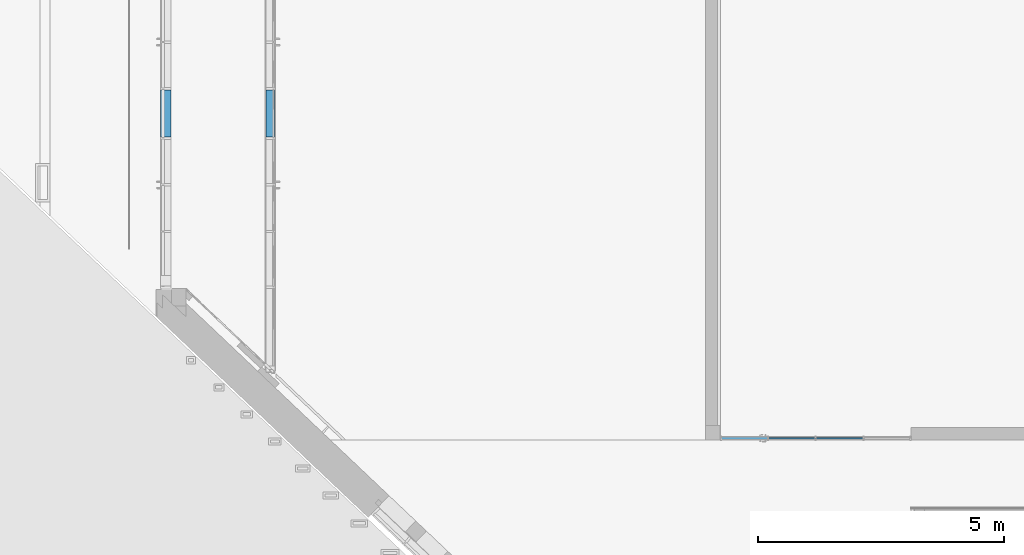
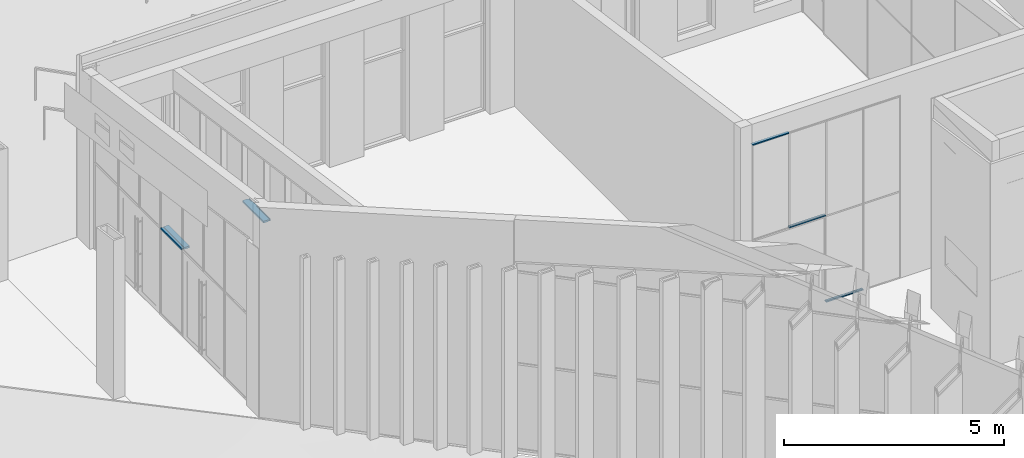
# One storey, part 87 of 246: 5 members, 3 elements without a shape of their own.
"""IFC2X3 building model written with IfcOpenShell, lengths in millimetres."""

from ifc_helpers import new_model, entity, si_unit, converted_unit, derived_unit, money_unit, direction, frame, origin_with_axes, place, context, subcontext, project, spatial, faceted_brep, material, material_list, type_object, element, aggregate, save


model = new_model("IFC2X3")

# Units and contexts
model_context = context("Model", 3, precision=0.01, world=origin_with_axes(), true_north=direction((0.0, 1.0)))
body_context = subcontext(model_context, "Body", "Model", "MODEL_VIEW")
ifc_project = project(units=[si_unit("LENGTHUNIT", "METRE", prefix="MILLI"), si_unit("AREAUNIT", "SQUARE_METRE"), si_unit("VOLUMEUNIT", "CUBIC_METRE"), converted_unit("PLANEANGLEUNIT", "DEGREE", entity("IfcPlaneAngleMeasure", 0.0174532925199), si_unit("PLANEANGLEUNIT", "RADIAN"), dimensions=[0, 0, 0, 0, 0, 0, 0]), si_unit("SOLIDANGLEUNIT", "STERADIAN"), money_unit("EUR"), converted_unit("TIMEUNIT", "Year", entity("IfcTimeMeasure", 31556926.0), si_unit("TIMEUNIT", "SECOND"), dimensions=[0, 0, 1, 0, 0, 0, 0]), si_unit("MASSUNIT", "GRAM", prefix="KILO"), si_unit("THERMODYNAMICTEMPERATUREUNIT", "DEGREE_CELSIUS"), si_unit("LUMINOUSINTENSITYUNIT", "LUMEN"), si_unit("ENERGYUNIT", "JOULE", prefix="MEGA"), derived_unit("THERMALCONDUCTANCEUNIT", [(si_unit("POWERUNIT", "WATT"), 1), (si_unit("LENGTHUNIT", "METRE"), -1), (si_unit("THERMODYNAMICTEMPERATUREUNIT", "KELVIN"), -1)]), derived_unit("SPECIFICHEATCAPACITYUNIT", [(si_unit("ENERGYUNIT", "JOULE"), 1), (si_unit("MASSUNIT", "GRAM", prefix="KILO"), -1), (si_unit("THERMODYNAMICTEMPERATUREUNIT", "KELVIN"), -1)]), derived_unit("MASSDENSITYUNIT", [(si_unit("MASSUNIT", "GRAM", prefix="KILO"), 1), (si_unit("VOLUMEUNIT", "CUBIC_METRE"), -1)])], contexts=[model_context])

# Site, building, storey
site_placement = place(None, origin_with_axes())
site = spatial("IfcSite", under=ifc_project, at=site_placement, Name="L.Koidula tn 11b", CompositionType="ELEMENT")
building_placement = place(site_placement, origin_with_axes())
building = spatial("IfcBuilding", under=site, at=building_placement, Name="Rakvere Riigigümnaasium", CompositionType="ELEMENT")
storey_placement = place(building_placement, origin_with_axes())
storey = spatial("IfcBuildingStorey", under=building, at=storey_placement, Name="1.korrus 0,00", CompositionType="ELEMENT", Elevation=0.0)

# Curtain wall, member
curtain_wall_type = type_object("IfcCurtainWallType", Name="Curtain Wall Type", PredefinedType="NOTDEFINED")
curtain_wall_1_placement = place(storey_placement, frame((14260.0344055, 70945.4519938, -0.000165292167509), z_axis=(0.0, 0.0, 1.0), x_axis=(1.0, 0.0, 0.0)))
curtain_wall_1 = element("IfcCurtainWall", 1, at=curtain_wall_1_placement, inside=storey, type_object=curtain_wall_type, Name="KLF-01A")
ifc_material_1 = material(Name="Alumiiniumprofiil (RAL 7021)")
member_type_1 = type_object("IfcMemberType", Name="Transom Frame 50 x 208", PredefinedType="MULLION")
member_1_placement = place(curtain_wall_1_placement, frame((0.0, -2455.0, 2400.00026018), z_axis=(0.0, -1.0, 0.0), x_axis=(0.0, 0.0, 1.0)))
member_1 = element("IfcMember", 2, at=member_1_placement, type_object=member_type_1, material=ifc_material_1, Name="KLF-01 Profiilid", ObjectType="MULLION", context=body_context, shape_type="Brep", body=[
    faceted_brep([(-12.0, -27.0, 980.0), (-25.0, -27.0, 980.0), (-25.0, -160.0, 980.0), (25.0, -160.0, 980.0), (25.0, -27.0, 980.0), (12.0, -27.0, 980.0), (12.0, 27.0, 980.0), (25.0, 27.0, 980.0), (25.0, 48.0, 980.0), (-25.0, 48.0, 980.0), (-25.0, 27.0, 980.0), (-12.0, 27.0, 980.0), (-12.0, -27.0, 25.0), (-25.0, -27.0, 25.0), (-25.0, -160.0, 25.0), (25.0, -160.0, 25.0), (25.0, -27.0, 25.0), (12.0, -27.0, 25.0), (12.0, 27.0, 25.0), (25.0, 27.0, 25.0), (25.0, 48.0, 25.0), (-25.0, 48.0, 25.0), (-25.0, 27.0, 25.0), (-12.0, 27.0, 25.0)], [[[0, 1, 2, 3, 4, 5, 6, 7, 8, 9, 10, 11]], [[1, 0, 12, 13]], [[1, 13, 14, 2]], [[2, 14, 15, 3]], [[4, 3, 15, 16]], [[4, 16, 17, 5]], [[5, 17, 18, 6]], [[7, 6, 18, 19]], [[19, 20, 8, 7]], [[8, 20, 21, 9]], [[22, 10, 9, 21]], [[11, 10, 22, 23]], [[0, 11, 23, 12]], [[23, 22, 21, 20, 19, 18, 17, 16, 15, 14, 13, 12]]]),
])
aggregate(curtain_wall_1, [member_1])

# Curtain wall, members
curtain_wall_2_placement = place(storey_placement, frame((26572.4999007, 61372.4546496, 0.0), z_axis=(0.0, 0.0, 1.0), x_axis=(1.0, 0.0, 0.0)))
curtain_wall_2 = element("IfcCurtainWall", 3, at=curtain_wall_2_placement, inside=storey, type_object=curtain_wall_type, Name="SKLF-01")
ifc_material_2 = material(Name="Klaasvill")
ifc_material_3 = material(Name="Teras RAL7012")
ifc_material_list = material_list([ifc_material_2, ifc_material_3])
member_type_2 = type_object("IfcMemberType", Name="Siseklaasfassaad-Servaprofiil-Doubleline30 30 x 42", PredefinedType="MULLION")
member_2_placement = place(curtain_wall_2_placement, frame((0.0, 0.0, 2400.0), z_axis=(1.0, 0.0, 0.0), x_axis=(0.0, 0.0, 1.0)))
member_2 = element("IfcMember", 4, at=member_2_placement, type_object=member_type_2, material=ifc_material_list, Name="Frame-Siseklaasf-104", ObjectType="MULLION", context=body_context, shape_type="Brep", body=[
    faceted_brep([(13.8499999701, 15.000000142, 7.84833717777), (13.8499999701, 15.000000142, 964.651662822), (7.49999990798, 15.000000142, 968.249997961), (7.49999990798, 15.000000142, 4.25000203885), (13.8499999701, 29.0161444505, 7.84833717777), (13.8499999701, 29.0161444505, 964.651662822), (7.49999990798, 29.0161444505, 968.249997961), (7.49999990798, 29.0161444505, 4.25000203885)], [[[0, 1, 2, 3]], [[4, 5, 1, 0]], [[2, 1, 5, 6]], [[3, 2, 6, 7]], [[3, 7, 4, 0]], [[7, 6, 5, 4]]]),
    faceted_brep([(25.004489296, 27.0307503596, 14.1692175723), (25.004489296, 27.0307503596, 958.330782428), (24.987414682, 29.0161444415, 958.340458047), (24.987414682, 29.0161444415, 14.159541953), (25.742237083, 26.2930025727, 14.5872748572), (25.742237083, 26.2930025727, 957.912725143), (26.7500193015, 26.0229681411, 957.341648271), (27.75780152, 26.2930025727, 956.7705714), (28.4955493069, 27.0307503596, 956.352514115), (28.7655837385, 28.0385325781, 956.199494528), (28.5126239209, 29.0161444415, 956.342838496), (28.5126239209, 29.0161444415, 16.1571615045), (28.7655837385, 28.0385325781, 16.3005054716), (28.4955493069, 27.0307503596, 16.1474858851), (27.75780152, 26.2930025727, 15.7294286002), (26.7500193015, 26.0229681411, 15.1583517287)], [[[0, 1, 2, 3]], [[4, 5, 1, 0]], [[2, 1, 5, 6, 7, 8, 9, 10]], [[3, 2, 10, 11]], [[3, 11, 12, 13, 14, 15, 4, 0]], [[15, 6, 5, 4]], [[14, 7, 6, 15]], [[13, 8, 7, 14]], [[12, 9, 8, 13]], [[11, 10, 9, 12]]]),
    faceted_brep([(7.49999990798, -39.0161445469, 4.25000203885), (7.49999990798, -39.0161445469, 968.249997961), (7.49999990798, -24.9999997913, 968.249997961), (7.49999990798, -24.9999997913, 4.25000203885), (13.8499999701, -39.0161445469, 7.84833717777), (13.8499999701, -39.0161445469, 964.651662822), (13.8499999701, -24.9999997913, 964.651662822), (13.8499999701, -24.9999997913, 7.84833717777)], [[[0, 1, 2, 3]], [[4, 5, 1, 0]], [[2, 1, 5, 6]], [[3, 2, 6, 7]], [[3, 7, 4, 0]], [[7, 6, 5, 4]]]),
    faceted_brep([(24.987414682, -39.0161444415, 14.159541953), (24.987414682, -39.0161444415, 958.340458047), (25.004489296, -37.0307503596, 958.330782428), (25.004489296, -37.0307503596, 14.1692175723), (28.5126239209, -39.0161444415, 16.1571615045), (28.5126239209, -39.0161444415, 956.342838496), (28.7655837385, -38.0385325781, 956.199494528), (28.4955493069, -37.0307503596, 956.352514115), (27.75780152, -36.2930025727, 956.7705714), (26.7500193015, -36.0229681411, 957.341648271), (25.742237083, -36.2930025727, 957.912725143), (25.742237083, -36.2930025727, 14.5872748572), (26.7500193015, -36.0229681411, 15.1583517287), (27.75780152, -36.2930025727, 15.7294286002), (28.4955493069, -37.0307503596, 16.1474858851), (28.7655837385, -38.0385325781, 16.3005054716)], [[[0, 1, 2, 3]], [[4, 5, 1, 0]], [[2, 1, 5, 6, 7, 8, 9, 10]], [[3, 2, 10, 11]], [[3, 11, 12, 13, 14, 15, 4, 0]], [[15, 6, 5, 4]], [[14, 7, 6, 15]], [[13, 8, 7, 14]], [[12, 9, 8, 13]], [[11, 10, 9, 12]]]),
    faceted_brep([(29.5999996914, -22.0000000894, 16.7733414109), (29.5999996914, -22.0000000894, 955.726658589), (0.0, -22.0000000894, 972.5), (0.0, -22.0000000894, 0.0), (29.5999996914, 12.0000000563, 16.7733414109), (29.5999996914, 12.0000000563, 955.726658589), (0.0, 12.0000000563, 972.5), (1.9999999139, 10.0000001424, 971.366666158), (18.7999996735, 10.0000001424, 961.84666161), (18.7999996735, -20.0000001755, 961.84666161), (1.9999999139, -20.0000001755, 971.366666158), (0.0, 12.0000000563, 0.0), (1.9999999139, 10.0000001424, 1.13333384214), (1.9999999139, -20.0000001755, 1.13333384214), (18.7999996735, -20.0000001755, 10.6533383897), (18.7999996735, 10.0000001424, 10.6533383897)], [[[0, 1, 2, 3]], [[4, 5, 1, 0]], [[2, 1, 5, 6], [7, 8, 9, 10]], [[3, 2, 6, 11]], [[3, 11, 4, 0], [12, 13, 14, 15]], [[11, 6, 5, 4]], [[15, 8, 7, 12]], [[14, 9, 8, 15]], [[13, 10, 9, 14]], [[12, 7, 10, 13]]]),
    faceted_brep([(29.5999996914, 12.0000000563, 16.7733414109), (29.5999996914, 12.0000000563, 955.726658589), (0.0, 12.0, 972.5), (0.0, 12.0, 0.0), (30.0000193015, 12.0, 17.0000193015), (30.0000193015, 12.0, 955.499980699), (30.0000193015, 15.0, 955.499980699), (13.8499999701, 15.000000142, 964.651662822), (7.49999999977, 15.0, 968.249997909), (7.49999999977, 29.0161444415, 968.249997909), (13.8499999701, 29.0161444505, 964.651662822), (24.987414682, 29.0161444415, 958.340458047), (28.5126239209, 29.0161444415, 956.342838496), (30.0000193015, 29.0161444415, 955.499980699), (30.0000193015, 32.0, 955.499980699), (0.0, 32.0, 972.5), (0.0, 32.0, 0.0), (30.0000193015, 32.0, 17.0000193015), (30.0000193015, 29.0161444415, 17.0000193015), (28.5126239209, 29.0161444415, 16.1571615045), (24.987414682, 29.0161444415, 14.159541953), (13.8499999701, 29.0161444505, 7.84833717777), (7.49999999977, 29.0161444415, 4.25000209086), (7.49999999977, 15.0, 4.25000209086), (13.8499999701, 15.000000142, 7.84833717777), (30.0000193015, 15.0, 17.0000193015)], [[[0, 1, 2, 3]], [[4, 5, 1, 0]], [[2, 1, 5, 6, 7, 8, 9, 10, 11, 12, 13, 14, 15]], [[3, 2, 15, 16]], [[3, 16, 17, 18, 19, 20, 21, 22, 23, 24, 25, 4, 0]], [[25, 6, 5, 4]], [[24, 7, 6, 25]], [[23, 8, 7, 24]], [[22, 9, 8, 23]], [[21, 10, 9, 22]], [[20, 11, 10, 21]], [[19, 12, 11, 20]], [[18, 13, 12, 19]], [[17, 14, 13, 18]], [[16, 15, 14, 17]]]),
    faceted_brep([(0.0, -42.0, 0.0), (0.0, -42.0, 972.5), (0.0, -22.0, 972.5), (0.0, -22.0, 0.0), (30.0000193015, -42.0, 17.0000193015), (30.0000193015, -42.0, 955.499980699), (30.0000193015, -39.0161444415, 955.499980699), (28.5126239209, -39.0161444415, 956.342838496), (24.987414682, -39.0161444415, 958.340458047), (13.8499999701, -39.0161445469, 964.651662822), (7.49999999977, -39.0161444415, 968.249997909), (7.49999999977, -25.0, 968.249997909), (13.8499999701, -24.9999997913, 964.651662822), (30.0000193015, -25.0, 955.499980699), (30.0000193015, -22.0, 955.499980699), (29.5999996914, -22.0000000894, 955.726658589), (29.5999996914, -22.0000000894, 16.7733414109), (30.0000193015, -22.0, 17.0000193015), (30.0000193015, -25.0, 17.0000193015), (13.8499999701, -24.9999997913, 7.84833717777), (7.49999999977, -25.0, 4.25000209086), (7.49999999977, -39.0161444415, 4.25000209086), (13.8499999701, -39.0161445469, 7.84833717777), (24.987414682, -39.0161444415, 14.159541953), (28.5126239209, -39.0161444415, 16.1571615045), (30.0000193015, -39.0161444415, 17.0000193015)], [[[0, 1, 2, 3]], [[4, 5, 1, 0]], [[2, 1, 5, 6, 7, 8, 9, 10, 11, 12, 13, 14, 15]], [[3, 2, 15, 16]], [[3, 16, 17, 18, 19, 20, 21, 22, 23, 24, 25, 4, 0]], [[25, 6, 5, 4]], [[24, 7, 6, 25]], [[23, 8, 7, 24]], [[22, 9, 8, 23]], [[21, 10, 9, 22]], [[20, 11, 10, 21]], [[19, 12, 11, 20]], [[18, 13, 12, 19]], [[17, 14, 13, 18]], [[16, 15, 14, 17]]]),
])
member_type_3 = type_object("IfcMemberType", Name="Boundary Frame 30 x 42", PredefinedType="MULLION")
member_3_placement = place(curtain_wall_2_placement, frame((972.5, 0.0, 0.0), z_axis=(1.0, 0.0, 0.0), x_axis=(0.0, 0.0, 1.0)))
member_3 = element("IfcMember", 5, at=member_3_placement, type_object=member_type_3, material=ifc_material_list, Name="SKLF-66-raam", ObjectType="MULLION", context=body_context, shape_type="Brep", body=[
    faceted_brep([(7.49999990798, 15.000000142, 0.0), (13.8499999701, 15.000000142, 0.0), (13.8499999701, 15.000000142, 972.5), (7.49999990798, 15.000000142, 972.5), (7.49999990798, 29.0161444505, 0.0), (13.8499999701, 29.0161444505, 0.0), (13.8499999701, 29.0161444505, 972.5), (7.49999990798, 29.0161444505, 972.5)], [[[0, 1, 2, 3]], [[0, 4, 5, 1]], [[1, 5, 6, 2]], [[3, 2, 6, 7]], [[4, 0, 3, 7]], [[5, 4, 7, 6]]]),
    faceted_brep([(24.987414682, 29.0161444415, 0.0), (25.004489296, 27.0307503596, 0.0), (25.004489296, 27.0307503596, 972.5), (24.987414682, 29.0161444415, 972.5), (28.5126239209, 29.0161444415, 0.0), (28.7655837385, 28.0385325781, 0.0), (28.4955493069, 27.0307503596, 0.0), (27.75780152, 26.2930025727, 0.0), (26.7500193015, 26.0229681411, 0.0), (25.742237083, 26.2930025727, 0.0), (25.742237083, 26.2930025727, 972.5), (26.7500193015, 26.0229681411, 972.5), (27.75780152, 26.2930025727, 972.5), (28.4955493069, 27.0307503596, 972.5), (28.7655837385, 28.0385325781, 972.5), (28.5126239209, 29.0161444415, 972.5)], [[[0, 1, 2, 3]], [[0, 4, 5, 6, 7, 8, 9, 1]], [[1, 9, 10, 2]], [[3, 2, 10, 11, 12, 13, 14, 15]], [[4, 0, 3, 15]], [[5, 4, 15, 14]], [[6, 5, 14, 13]], [[7, 6, 13, 12]], [[8, 7, 12, 11]], [[9, 8, 11, 10]]]),
    faceted_brep([(7.49999990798, -24.9999997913, 0.0), (7.49999990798, -39.0161445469, 0.0), (7.49999990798, -39.0161445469, 972.5), (7.49999990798, -24.9999997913, 972.5), (13.8499999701, -24.9999997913, 0.0), (13.8499999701, -39.0161445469, 0.0), (13.8499999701, -39.0161445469, 972.5), (13.8499999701, -24.9999997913, 972.5)], [[[0, 1, 2, 3]], [[0, 4, 5, 1]], [[1, 5, 6, 2]], [[3, 2, 6, 7]], [[4, 0, 3, 7]], [[5, 4, 7, 6]]]),
    faceted_brep([(25.004489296, -37.0307503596, 0.0), (24.987414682, -39.0161444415, 0.0), (24.987414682, -39.0161444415, 972.5), (25.004489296, -37.0307503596, 972.5), (25.742237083, -36.2930025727, 0.0), (26.7500193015, -36.0229681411, 0.0), (27.75780152, -36.2930025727, 0.0), (28.4955493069, -37.0307503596, 0.0), (28.7655837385, -38.0385325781, 0.0), (28.5126239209, -39.0161444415, 0.0), (28.5126239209, -39.0161444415, 972.5), (28.7655837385, -38.0385325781, 972.5), (28.4955493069, -37.0307503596, 972.5), (27.75780152, -36.2930025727, 972.5), (26.7500193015, -36.0229681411, 972.5), (25.742237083, -36.2930025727, 972.5)], [[[0, 1, 2, 3]], [[0, 4, 5, 6, 7, 8, 9, 1]], [[1, 9, 10, 2]], [[3, 2, 10, 11, 12, 13, 14, 15]], [[4, 0, 3, 15]], [[5, 4, 15, 14]], [[6, 5, 14, 13]], [[7, 6, 13, 12]], [[8, 7, 12, 11]], [[9, 8, 11, 10]]]),
    faceted_brep([(0.0, -22.0000000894, 0.0), (29.5999996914, -22.0000000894, 0.0), (29.5999996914, -22.0000000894, 972.5), (0.0, -22.0000000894, 972.5), (0.0, 12.0000000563, 0.0), (29.5999996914, 12.0000000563, 0.0), (1.9999999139, 10.0000001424, 0.0), (1.9999999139, -20.0000001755, 0.0), (18.7999996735, -20.0000001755, 0.0), (18.7999996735, 10.0000001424, 0.0), (29.5999996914, 12.0000000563, 972.5), (0.0, 12.0000000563, 972.5), (1.9999999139, 10.0000001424, 972.5), (18.7999996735, 10.0000001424, 972.5), (18.7999996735, -20.0000001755, 972.5), (1.9999999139, -20.0000001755, 972.5)], [[[0, 1, 2, 3]], [[0, 4, 5, 1], [6, 7, 8, 9]], [[1, 5, 10, 2]], [[3, 2, 10, 11], [12, 13, 14, 15]], [[4, 0, 3, 11]], [[5, 4, 11, 10]], [[7, 6, 12, 15]], [[8, 7, 15, 14]], [[9, 8, 14, 13]], [[6, 9, 13, 12]]]),
    faceted_brep([(0.0, 12.0, 0.0), (29.5999996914, 12.0000000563, 0.0), (29.5999996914, 12.0000000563, 972.5), (0.0, 12.0, 972.5), (0.0, 32.0, 0.0), (30.0000193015, 32.0, 0.0), (30.0000193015, 29.0161444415, 0.0), (28.5126239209, 29.0161444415, 0.0), (24.987414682, 29.0161444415, 0.0), (13.8499999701, 29.0161444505, 0.0), (7.49999999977, 29.0161444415, 0.0), (7.49999999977, 15.0, 0.0), (13.8499999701, 15.000000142, 0.0), (30.0000193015, 15.0, 0.0), (30.0000193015, 12.0, 0.0), (30.0000193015, 12.0, 972.5), (30.0000193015, 15.0, 972.5), (13.8499999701, 15.000000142, 972.5), (7.49999999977, 15.0, 972.5), (7.49999999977, 29.0161444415, 972.5), (13.8499999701, 29.0161444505, 972.5), (24.987414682, 29.0161444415, 972.5), (28.5126239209, 29.0161444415, 972.5), (30.0000193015, 29.0161444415, 972.5), (30.0000193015, 32.0, 972.5), (0.0, 32.0, 972.5)], [[[0, 1, 2, 3]], [[0, 4, 5, 6, 7, 8, 9, 10, 11, 12, 13, 14, 1]], [[1, 14, 15, 2]], [[3, 2, 15, 16, 17, 18, 19, 20, 21, 22, 23, 24, 25]], [[4, 0, 3, 25]], [[5, 4, 25, 24]], [[6, 5, 24, 23]], [[7, 6, 23, 22]], [[8, 7, 22, 21]], [[9, 8, 21, 20]], [[10, 9, 20, 19]], [[11, 10, 19, 18]], [[12, 11, 18, 17]], [[13, 12, 17, 16]], [[14, 13, 16, 15]]]),
    faceted_brep([(0.0, -22.0, 0.0), (0.0, -42.0, 0.0), (0.0, -42.0, 972.5), (0.0, -22.0, 972.5), (29.5999996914, -22.0000000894, 0.0), (30.0000193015, -22.0, 0.0), (30.0000193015, -25.0, 0.0), (13.8499999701, -24.9999997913, 0.0), (7.49999999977, -25.0, 0.0), (7.49999999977, -39.0161444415, 0.0), (13.8499999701, -39.0161445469, 0.0), (24.987414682, -39.0161444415, 0.0), (28.5126239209, -39.0161444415, 0.0), (30.0000193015, -39.0161444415, 0.0), (30.0000193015, -42.0, 0.0), (30.0000193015, -42.0, 972.5), (30.0000193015, -39.0161444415, 972.5), (28.5126239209, -39.0161444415, 972.5), (24.987414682, -39.0161444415, 972.5), (13.8499999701, -39.0161445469, 972.5), (7.49999999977, -39.0161444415, 972.5), (7.49999999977, -25.0, 972.5), (13.8499999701, -24.9999997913, 972.5), (30.0000193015, -25.0, 972.5), (30.0000193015, -22.0, 972.5), (29.5999996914, -22.0000000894, 972.5)], [[[0, 1, 2, 3]], [[0, 4, 5, 6, 7, 8, 9, 10, 11, 12, 13, 14, 1]], [[1, 14, 15, 2]], [[3, 2, 15, 16, 17, 18, 19, 20, 21, 22, 23, 24, 25]], [[4, 0, 3, 25]], [[5, 4, 25, 24]], [[6, 5, 24, 23]], [[7, 6, 23, 22]], [[8, 7, 22, 21]], [[9, 8, 21, 20]], [[10, 9, 20, 19]], [[11, 10, 19, 18]], [[12, 11, 18, 17]], [[13, 12, 17, 16]], [[14, 13, 16, 15]]]),
])
member_4_placement = place(curtain_wall_2_placement, frame((-972.5, 0.0, 5050.0), z_axis=(1.0, 0.0, 0.0), x_axis=(0.0, 0.0, 1.0)))
member_4 = element("IfcMember", 6, at=member_4_placement, type_object=member_type_3, material=ifc_material_list, Name="SKLF-73-raam", ObjectType="MULLION", context=body_context, shape_type="Brep", body=[
    faceted_brep([(-13.8499999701, 15.000000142, 13.8499999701), (-7.49999990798, 15.000000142, 7.49999990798), (-7.49999990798, 15.000000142, 972.5), (-13.8499999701, 15.000000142, 972.5), (-13.8499999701, 29.0161444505, 13.8499999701), (-7.49999990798, 29.0161444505, 7.49999990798), (-7.49999990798, 29.0161444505, 972.5), (-13.8499999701, 29.0161444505, 972.5)], [[[0, 1, 2, 3]], [[1, 0, 4, 5]], [[1, 5, 6, 2]], [[2, 6, 7, 3]], [[4, 0, 3, 7]], [[5, 4, 7, 6]]]),
    faceted_brep([(-25.004489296, 27.0307503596, 25.004489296), (-24.987414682, 29.0161444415, 24.987414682), (-24.987414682, 29.0161444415, 972.5), (-25.004489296, 27.0307503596, 972.5), (-25.742237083, 26.2930025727, 25.742237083), (-26.7500193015, 26.0229681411, 26.7500193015), (-27.75780152, 26.2930025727, 27.75780152), (-28.4955493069, 27.0307503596, 28.4955493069), (-28.7655837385, 28.0385325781, 28.7655837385), (-28.5126239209, 29.0161444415, 28.5126239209), (-28.5126239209, 29.0161444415, 972.5), (-28.7655837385, 28.0385325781, 972.5), (-28.4955493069, 27.0307503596, 972.5), (-27.75780152, 26.2930025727, 972.5), (-26.7500193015, 26.0229681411, 972.5), (-25.742237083, 26.2930025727, 972.5)], [[[0, 1, 2, 3]], [[1, 0, 4, 5, 6, 7, 8, 9]], [[1, 9, 10, 2]], [[2, 10, 11, 12, 13, 14, 15, 3]], [[4, 0, 3, 15]], [[5, 4, 15, 14]], [[6, 5, 14, 13]], [[7, 6, 13, 12]], [[8, 7, 12, 11]], [[9, 8, 11, 10]]]),
    faceted_brep([(-7.49999990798, -39.0161445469, 7.49999990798), (-7.49999990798, -24.9999997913, 7.49999990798), (-7.49999990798, -24.9999997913, 972.5), (-7.49999990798, -39.0161445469, 972.5), (-13.8499999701, -39.0161445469, 13.8499999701), (-13.8499999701, -24.9999997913, 13.8499999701), (-13.8499999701, -24.9999997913, 972.5), (-13.8499999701, -39.0161445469, 972.5)], [[[0, 1, 2, 3]], [[1, 0, 4, 5]], [[1, 5, 6, 2]], [[2, 6, 7, 3]], [[4, 0, 3, 7]], [[5, 4, 7, 6]]]),
    faceted_brep([(-24.987414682, -39.0161444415, 24.987414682), (-25.004489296, -37.0307503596, 25.004489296), (-25.004489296, -37.0307503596, 972.5), (-24.987414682, -39.0161444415, 972.5), (-28.5126239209, -39.0161444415, 28.5126239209), (-28.7655837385, -38.0385325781, 28.7655837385), (-28.4955493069, -37.0307503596, 28.4955493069), (-27.75780152, -36.2930025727, 27.75780152), (-26.7500193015, -36.0229681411, 26.7500193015), (-25.742237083, -36.2930025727, 25.742237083), (-25.742237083, -36.2930025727, 972.5), (-26.7500193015, -36.0229681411, 972.5), (-27.75780152, -36.2930025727, 972.5), (-28.4955493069, -37.0307503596, 972.5), (-28.7655837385, -38.0385325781, 972.5), (-28.5126239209, -39.0161444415, 972.5)], [[[0, 1, 2, 3]], [[1, 0, 4, 5, 6, 7, 8, 9]], [[1, 9, 10, 2]], [[2, 10, 11, 12, 13, 14, 15, 3]], [[4, 0, 3, 15]], [[5, 4, 15, 14]], [[6, 5, 14, 13]], [[7, 6, 13, 12]], [[8, 7, 12, 11]], [[9, 8, 11, 10]]]),
    faceted_brep([(-29.5999996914, -22.0000000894, 29.5999996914), (0.0, -22.0000000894, 0.0), (0.0, -22.0000000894, 972.5), (-29.5999996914, -22.0000000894, 972.5), (-29.5999996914, 12.0000000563, 29.5999996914), (0.0, 12.0000000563, 0.0), (-1.9999999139, 10.0000001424, 1.9999999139), (-18.7999996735, 10.0000001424, 18.7999996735), (-18.7999996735, -20.0000001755, 18.7999996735), (-1.9999999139, -20.0000001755, 1.9999999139), (0.0, 12.0000000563, 972.5), (-29.5999996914, 12.0000000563, 972.5), (-1.9999999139, 10.0000001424, 972.5), (-1.9999999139, -20.0000001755, 972.5), (-18.7999996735, -20.0000001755, 972.5), (-18.7999996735, 10.0000001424, 972.5)], [[[0, 1, 2, 3]], [[1, 0, 4, 5], [6, 7, 8, 9]], [[1, 5, 10, 2]], [[2, 10, 11, 3], [12, 13, 14, 15]], [[4, 0, 3, 11]], [[5, 4, 11, 10]], [[7, 6, 12, 15]], [[8, 7, 15, 14]], [[9, 8, 14, 13]], [[6, 9, 13, 12]]]),
    faceted_brep([(-29.5999996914, 12.0000000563, 29.5999996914), (0.0, 12.0, 0.0), (0.0, 12.0, 972.5), (-29.5999996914, 12.0000000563, 972.5), (-30.0000193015, 12.0, 30.0000193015), (-30.0000193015, 15.0, 30.0000193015), (-13.8499999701, 15.000000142, 13.8499999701), (-7.49999999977, 15.0, 7.49999999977), (-7.49999999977, 29.0161444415, 7.49999999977), (-13.8499999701, 29.0161444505, 13.8499999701), (-24.987414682, 29.0161444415, 24.987414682), (-28.5126239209, 29.0161444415, 28.5126239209), (-30.0000193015, 29.0161444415, 30.0000193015), (-30.0000193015, 32.0, 30.0000193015), (0.0, 32.0, 0.0), (0.0, 32.0, 972.5), (-30.0000193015, 32.0, 972.5), (-30.0000193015, 29.0161444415, 972.5), (-28.5126239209, 29.0161444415, 972.5), (-24.987414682, 29.0161444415, 972.5), (-13.8499999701, 29.0161444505, 972.5), (-7.49999999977, 29.0161444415, 972.5), (-7.49999999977, 15.0, 972.5), (-13.8499999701, 15.000000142, 972.5), (-30.0000193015, 15.0, 972.5), (-30.0000193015, 12.0, 972.5)], [[[0, 1, 2, 3]], [[1, 0, 4, 5, 6, 7, 8, 9, 10, 11, 12, 13, 14]], [[1, 14, 15, 2]], [[2, 15, 16, 17, 18, 19, 20, 21, 22, 23, 24, 25, 3]], [[4, 0, 3, 25]], [[5, 4, 25, 24]], [[6, 5, 24, 23]], [[7, 6, 23, 22]], [[8, 7, 22, 21]], [[9, 8, 21, 20]], [[10, 9, 20, 19]], [[11, 10, 19, 18]], [[12, 11, 18, 17]], [[13, 12, 17, 16]], [[14, 13, 16, 15]]]),
    faceted_brep([(0.0, -42.0, 0.0), (0.0, -22.0, 0.0), (0.0, -22.0, 972.5), (0.0, -42.0, 972.5), (-30.0000193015, -42.0, 30.0000193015), (-30.0000193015, -39.0161444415, 30.0000193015), (-28.5126239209, -39.0161444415, 28.5126239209), (-24.987414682, -39.0161444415, 24.987414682), (-13.8499999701, -39.0161445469, 13.8499999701), (-7.49999999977, -39.0161444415, 7.49999999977), (-7.49999999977, -25.0, 7.49999999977), (-13.8499999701, -24.9999997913, 13.8499999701), (-30.0000193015, -25.0, 30.0000193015), (-30.0000193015, -22.0, 30.0000193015), (-29.5999996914, -22.0000000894, 29.5999996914), (-29.5999996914, -22.0000000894, 972.5), (-30.0000193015, -22.0, 972.5), (-30.0000193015, -25.0, 972.5), (-13.8499999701, -24.9999997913, 972.5), (-7.49999999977, -25.0, 972.5), (-7.49999999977, -39.0161444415, 972.5), (-13.8499999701, -39.0161445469, 972.5), (-24.987414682, -39.0161444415, 972.5), (-28.5126239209, -39.0161444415, 972.5), (-30.0000193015, -39.0161444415, 972.5), (-30.0000193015, -42.0, 972.5)], [[[0, 1, 2, 3]], [[1, 0, 4, 5, 6, 7, 8, 9, 10, 11, 12, 13, 14]], [[1, 14, 15, 2]], [[2, 15, 16, 17, 18, 19, 20, 21, 22, 23, 24, 25, 3]], [[4, 0, 3, 25]], [[5, 4, 25, 24]], [[6, 5, 24, 23]], [[7, 6, 23, 22]], [[8, 7, 22, 21]], [[9, 8, 21, 20]], [[10, 9, 20, 19]], [[11, 10, 19, 18]], [[12, 11, 18, 17]], [[13, 12, 17, 16]], [[14, 13, 16, 15]]]),
])
aggregate(curtain_wall_2, [member_3, member_2, member_4])

# Curtain wall, member
curtain_wall_3_placement = place(storey_placement, frame((16510.0495753, 70995.4517615, -0.000456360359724), z_axis=(0.0, 0.0, 1.0), x_axis=(1.0, 0.0, 0.0)))
curtain_wall_3 = element("IfcCurtainWall", 7, at=curtain_wall_3_placement, inside=storey, type_object=curtain_wall_type, Name="KLF-01B")
member_type_4 = type_object("IfcMemberType", Name="Transom Frame 50 x 188", PredefinedType="MULLION")
member_5_placement = place(curtain_wall_3_placement, frame((0.0, -2504.99976778, 2400.00029107), z_axis=(0.0, -1.0, 0.0), x_axis=(0.0, 0.0, 1.0)))
member_5 = element("IfcMember", 8, at=member_5_placement, type_object=member_type_4, material=ifc_material_1, Name="KLF-01 Profiilid", ObjectType="MULLION", context=body_context, shape_type="Brep", body=[
    faceted_brep([(-12.0, 15.0, 980.0), (-12.0, -15.0, 980.0), (-25.0, -15.0, 980.0), (-25.0, -35.0, 980.0), (25.0, -35.0, 980.0), (25.0, -15.0, 980.0), (12.0, -15.0, 980.0), (12.0, 15.0, 980.0), (25.0, 15.0, 980.0), (25.0, 153.0, 980.0), (-25.0, 153.0, 980.0), (-25.0, 15.0, 980.0), (-12.0, 15.0, 25.0), (-12.0, -15.0, 25.0), (-25.0, -15.0, 25.0), (-25.0, -35.0, 25.0), (25.0, -35.0, 25.0), (25.0, -15.0, 25.0), (12.0, -15.0, 25.0), (12.0, 15.0, 25.0), (25.0, 15.0, 25.0), (25.0, 153.0, 25.0), (-25.0, 153.0, 25.0), (-25.0, 15.0, 25.0)], [[[0, 1, 2, 3, 4, 5, 6, 7, 8, 9, 10, 11]], [[0, 12, 13, 1]], [[1, 13, 14, 2]], [[14, 15, 3, 2]], [[4, 3, 15, 16]], [[17, 5, 4, 16]], [[5, 17, 18, 6]], [[7, 6, 18, 19]], [[8, 7, 19, 20]], [[8, 20, 21, 9]], [[10, 9, 21, 22]], [[11, 10, 22, 23]], [[11, 23, 12, 0]], [[13, 12, 23, 22, 21, 20, 19, 18, 17, 16, 15, 14]]]),
])
aggregate(curtain_wall_3, [member_5])

save(model, "model.ifc")
